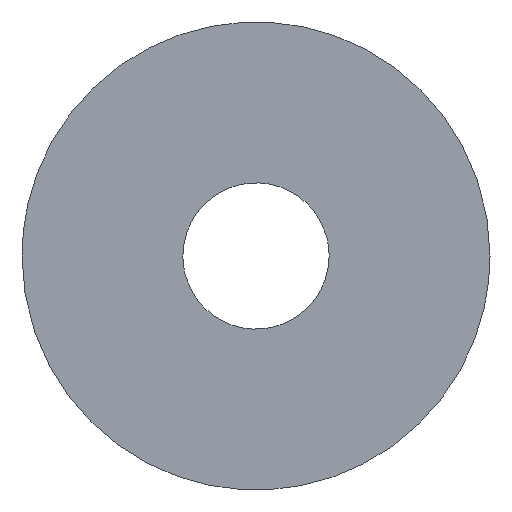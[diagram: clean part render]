
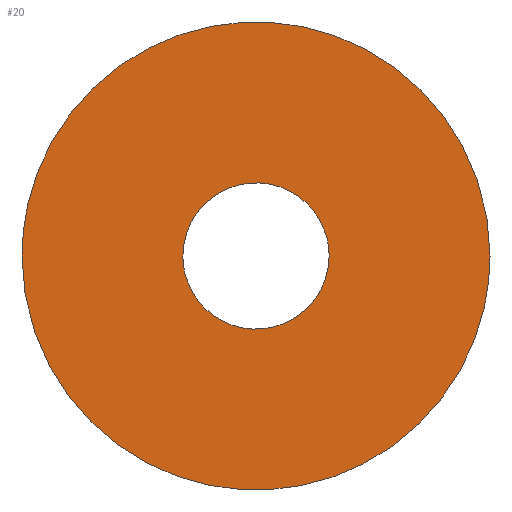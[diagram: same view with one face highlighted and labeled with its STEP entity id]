
A CAD part, front view. The second image highlights one B-rep face of the part: STEP entity #20.
In plain terms, the highlighted planar face has unit normal (0, -1, 0).
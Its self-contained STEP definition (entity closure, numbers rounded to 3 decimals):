
#16=FACE_BOUND('',#34,.T.);
#20=ADVANCED_FACE('',(#26,#16),#94,.T.);
#26=FACE_OUTER_BOUND('',#33,.T.);
#33=EDGE_LOOP('',(#49,#50));
#34=EDGE_LOOP('',(#51,#52));
#49=ORIENTED_EDGE('',*,*,#63,.T.);
#50=ORIENTED_EDGE('',*,*,#69,.T.);
#51=ORIENTED_EDGE('',*,*,#66,.T.);
#52=ORIENTED_EDGE('',*,*,#72,.T.);
#63=EDGE_CURVE('',#86,#90,#75,.T.);
#66=EDGE_CURVE('',#88,#92,#78,.T.);
#69=EDGE_CURVE('',#90,#86,#81,.T.);
#72=EDGE_CURVE('',#92,#88,#84,.T.);
#75=(
BOUNDED_CURVE()
B_SPLINE_CURVE(2,(#186,#187,#188,#189,#190),.UNSPECIFIED.,.F.,.F.)
B_SPLINE_CURVE_WITH_KNOTS((3,2,3),(0.,12.566,25.133),
 .UNSPECIFIED.)
CURVE()
GEOMETRIC_REPRESENTATION_ITEM()
RATIONAL_B_SPLINE_CURVE((1.,0.707,1.,0.707,1.))
REPRESENTATION_ITEM('')
);
#78=(
BOUNDED_CURVE()
B_SPLINE_CURVE(2,(#198,#199,#200,#201,#202),.UNSPECIFIED.,.F.,.F.)
B_SPLINE_CURVE_WITH_KNOTS((3,2,3),(50.265,54.192,58.119),
 .UNSPECIFIED.)
CURVE()
GEOMETRIC_REPRESENTATION_ITEM()
RATIONAL_B_SPLINE_CURVE((1.,0.707,1.,0.707,1.))
REPRESENTATION_ITEM('')
);
#81=(
BOUNDED_CURVE()
B_SPLINE_CURVE(2,(#210,#211,#212,#213,#214),.UNSPECIFIED.,.F.,.F.)
B_SPLINE_CURVE_WITH_KNOTS((3,2,3),(25.133,37.699,50.265),
 .UNSPECIFIED.)
CURVE()
GEOMETRIC_REPRESENTATION_ITEM()
RATIONAL_B_SPLINE_CURVE((1.,0.707,1.,0.707,1.))
REPRESENTATION_ITEM('')
);
#84=(
BOUNDED_CURVE()
B_SPLINE_CURVE(2,(#222,#223,#224,#225,#226),.UNSPECIFIED.,.F.,.F.)
B_SPLINE_CURVE_WITH_KNOTS((3,2,3),(58.119,62.046,65.973),
 .UNSPECIFIED.)
CURVE()
GEOMETRIC_REPRESENTATION_ITEM()
RATIONAL_B_SPLINE_CURVE((1.,0.707,1.,0.707,1.))
REPRESENTATION_ITEM('')
);
#86=VERTEX_POINT('',#172);
#88=VERTEX_POINT('',#174);
#90=VERTEX_POINT('',#176);
#92=VERTEX_POINT('',#178);
#94=PLANE('',#120);
#120=AXIS2_PLACEMENT_3D('',#150,#125,$);
#125=DIRECTION('',(0.,-1.,0.));
#150=CARTESIAN_POINT('',(165.483,135.875,430.772));
#172=CARTESIAN_POINT('',(183.483,135.875,440.772));
#174=CARTESIAN_POINT('',(177.983,135.875,440.772));
#176=CARTESIAN_POINT('',(167.483,135.875,440.772));
#178=CARTESIAN_POINT('',(172.983,135.875,440.772));
#186=CARTESIAN_POINT('',(183.483,135.875,440.772));
#187=CARTESIAN_POINT('',(183.483,135.875,448.772));
#188=CARTESIAN_POINT('',(175.483,135.875,448.772));
#189=CARTESIAN_POINT('',(167.483,135.875,448.772));
#190=CARTESIAN_POINT('',(167.483,135.875,440.772));
#198=CARTESIAN_POINT('',(177.983,135.875,440.772));
#199=CARTESIAN_POINT('',(177.983,135.875,438.272));
#200=CARTESIAN_POINT('',(175.483,135.875,438.272));
#201=CARTESIAN_POINT('',(172.983,135.875,438.272));
#202=CARTESIAN_POINT('',(172.983,135.875,440.772));
#210=CARTESIAN_POINT('',(167.483,135.875,440.772));
#211=CARTESIAN_POINT('',(167.483,135.875,432.772));
#212=CARTESIAN_POINT('',(175.483,135.875,432.772));
#213=CARTESIAN_POINT('',(183.483,135.875,432.772));
#214=CARTESIAN_POINT('',(183.483,135.875,440.772));
#222=CARTESIAN_POINT('',(172.983,135.875,440.772));
#223=CARTESIAN_POINT('',(172.983,135.875,443.272));
#224=CARTESIAN_POINT('',(175.483,135.875,443.272));
#225=CARTESIAN_POINT('',(177.983,135.875,443.272));
#226=CARTESIAN_POINT('',(177.983,135.875,440.772));
